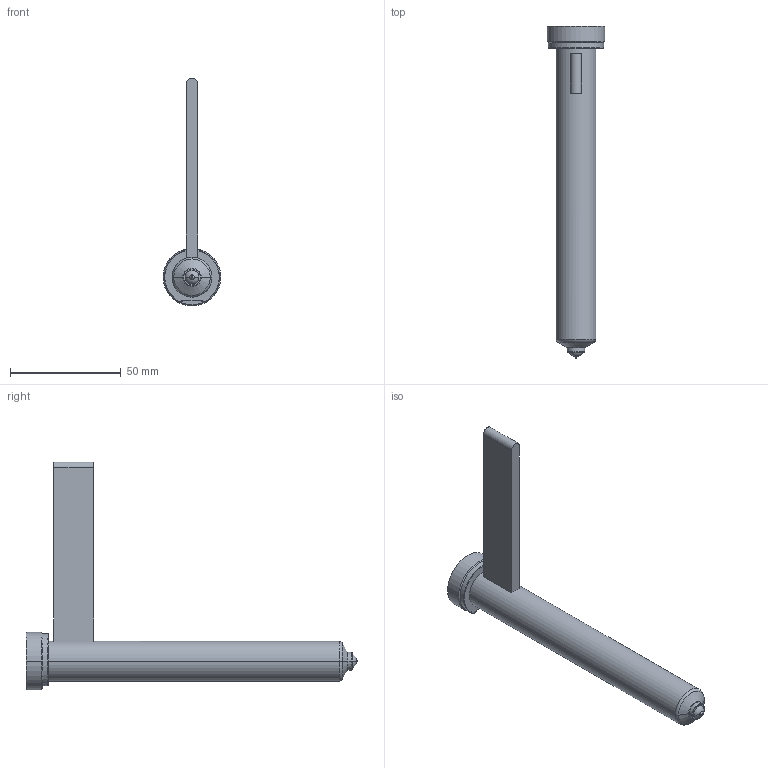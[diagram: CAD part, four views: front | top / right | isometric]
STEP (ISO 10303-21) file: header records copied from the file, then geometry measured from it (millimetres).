
FILE_DESCRIPTION((''),'2;1');
FILE_NAME('EO04_PG-BL_STD_140_COT','2024-02-19T10:58:36',('sundharh'),(''),'CREO PARAMETRIC BY PTC INC, 2023154','CREO PARAMETRIC BY PTC INC, 2023154','');
FILE_SCHEMA(('CONFIG_CONTROL_DESIGN'));
Length unit declared in the file: millimetre
Products named in the file (1): EO04_PG-BL_STD_140_COT
Bounding box: 26 x 150 x 103 mm (x, y, z)
Volume: 46643.9 mm3; surface area: 13108.1 mm2
Topology: 1 solids, 1 shells, 40 faces, 85 edges, 50 vertices
Faces by surface type: cylinder 13, plane 10, torus 9, cone 6, sphere 2
Entity records: 1195 total; most frequent: CARTESIAN_POINT 265, DIRECTION 209, ORIENTED_EDGE 170, AXIS2_PLACEMENT_3D 90, EDGE_CURVE 85, VERTEX_POINT 50, CIRCLE 50, EDGE_LOOP 43
